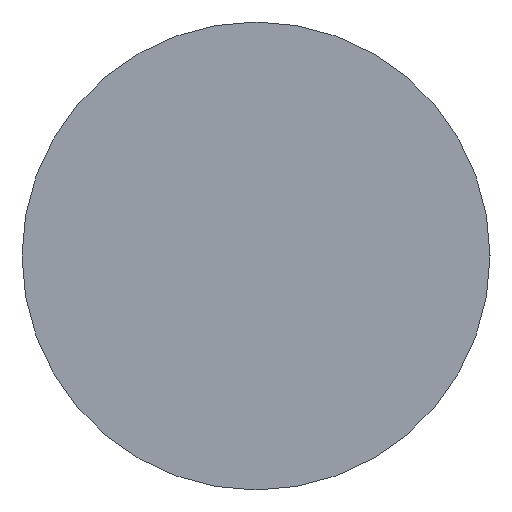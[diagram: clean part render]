
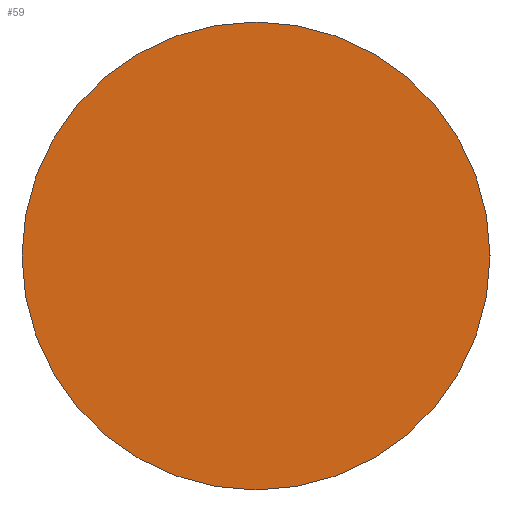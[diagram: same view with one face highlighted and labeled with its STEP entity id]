
A CAD part, left-side view. The second image highlights one B-rep face of the part: STEP entity #59.
In plain terms, the highlighted planar face has unit normal (-1, 0, 0).
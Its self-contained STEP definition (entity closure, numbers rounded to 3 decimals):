
#31 = VERTEX_POINT('',#32);
#32 = CARTESIAN_POINT('',(0.,0.,4.3));
#38 = EDGE_CURVE('',#31,#31,#39,.T.);
#39 = CIRCLE('',#40,4.3);
#40 = AXIS2_PLACEMENT_3D('',#41,#42,#43);
#41 = CARTESIAN_POINT('',(0.,0.,0.));
#42 = DIRECTION('',(1.,0.,0.));
#43 = DIRECTION('',(-0.,0.,1.));
#59 = ADVANCED_FACE('',(#60),#63,.F.);
#60 = FACE_BOUND('',#61,.T.);
#61 = EDGE_LOOP('',(#62));
#62 = ORIENTED_EDGE('',*,*,#38,.F.);
#63 = PLANE('',#64);
#64 = AXIS2_PLACEMENT_3D('',#65,#66,#67);
#65 = CARTESIAN_POINT('',(0.,0.,0.));
#66 = DIRECTION('',(1.,0.,0.));
#67 = DIRECTION('',(-0.,0.,1.));
